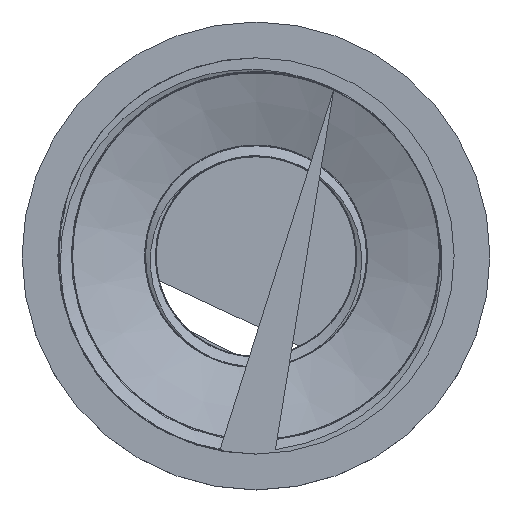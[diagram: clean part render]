
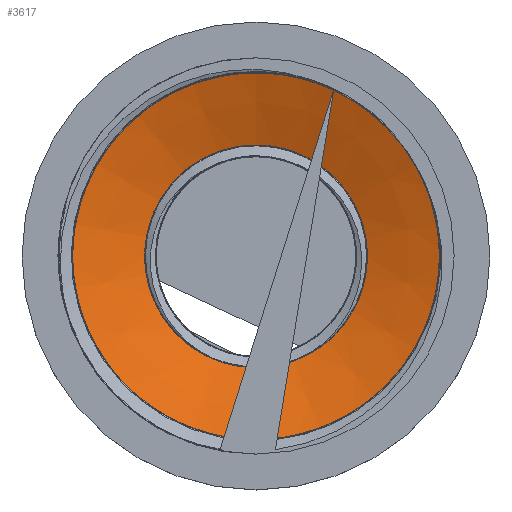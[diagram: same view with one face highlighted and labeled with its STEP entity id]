
A CAD part, top view. The second image highlights one B-rep face of the part: STEP entity #3617.
In plain terms, the highlighted conical face has half-angle 70 degrees and reference radius 18.35 mm.
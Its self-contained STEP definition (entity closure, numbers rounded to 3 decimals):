
#19=CONICAL_SURFACE('',#3952,18.35,1.222);
#447=LINE('',#6936,#676);
#676=VECTOR('',#4735,18.35);
#962=FACE_OUTER_BOUND('',#1183,.T.);
#1183=EDGE_LOOP('',(#3136,#3137,#3138,#3139,#3140,#3141));
#1378=CIRCLE('',#3950,23.5);
#1379=CIRCLE('',#3951,23.5);
#1380=CIRCLE('',#3953,13.2);
#1381=CIRCLE('',#3954,13.2);
#1677=VERTEX_POINT('',#6929);
#1678=VERTEX_POINT('',#6931);
#1679=VERTEX_POINT('',#6935);
#1680=VERTEX_POINT('',#6937);
#2179=EDGE_CURVE('',#1678,#1677,#1378,.T.);
#2180=EDGE_CURVE('',#1677,#1678,#1379,.T.);
#2181=EDGE_CURVE('',#1677,#1679,#447,.T.);
#2182=EDGE_CURVE('',#1680,#1679,#1380,.T.);
#2183=EDGE_CURVE('',#1679,#1680,#1381,.T.);
#3136=ORIENTED_EDGE('',*,*,#2179,.T.);
#3137=ORIENTED_EDGE('',*,*,#2181,.T.);
#3138=ORIENTED_EDGE('',*,*,#2182,.F.);
#3139=ORIENTED_EDGE('',*,*,#2183,.F.);
#3140=ORIENTED_EDGE('',*,*,#2181,.F.);
#3141=ORIENTED_EDGE('',*,*,#2180,.T.);
#3617=ADVANCED_FACE('',(#962),#19,.F.);
#3950=AXIS2_PLACEMENT_3D('',#6932,#4729,#4730);
#3951=AXIS2_PLACEMENT_3D('',#6933,#4731,#4732);
#3952=AXIS2_PLACEMENT_3D('',#6934,#4733,#4734);
#3953=AXIS2_PLACEMENT_3D('',#6938,#4736,#4737);
#3954=AXIS2_PLACEMENT_3D('',#6939,#4738,#4739);
#4729=DIRECTION('center_axis',(0.,0.,1.));
#4730=DIRECTION('ref_axis',(1.,0.,0.));
#4731=DIRECTION('center_axis',(0.,0.,1.));
#4732=DIRECTION('ref_axis',(1.,0.,0.));
#4733=DIRECTION('center_axis',(0.,0.,1.));
#4734=DIRECTION('ref_axis',(0.,-1.,0.));
#4735=DIRECTION('',(0.,-0.94,-0.342));
#4736=DIRECTION('center_axis',(0.,0.,1.));
#4737=DIRECTION('ref_axis',(1.,0.,0.));
#4738=DIRECTION('center_axis',(0.,0.,1.));
#4739=DIRECTION('ref_axis',(1.,0.,0.));
#6929=CARTESIAN_POINT('',(0.,23.5,20.817));
#6931=CARTESIAN_POINT('',(0.,-23.5,20.817));
#6932=CARTESIAN_POINT('Origin',(0.,0.,20.817));
#6933=CARTESIAN_POINT('Origin',(0.,0.,20.817));
#6934=CARTESIAN_POINT('Origin',(0.,0.,18.942));
#6935=CARTESIAN_POINT('',(0.,13.2,17.068));
#6936=CARTESIAN_POINT('',(0.,18.35,18.942));
#6937=CARTESIAN_POINT('',(0.,-13.2,17.068));
#6938=CARTESIAN_POINT('Origin',(0.,0.,17.068));
#6939=CARTESIAN_POINT('Origin',(0.,0.,17.068));
